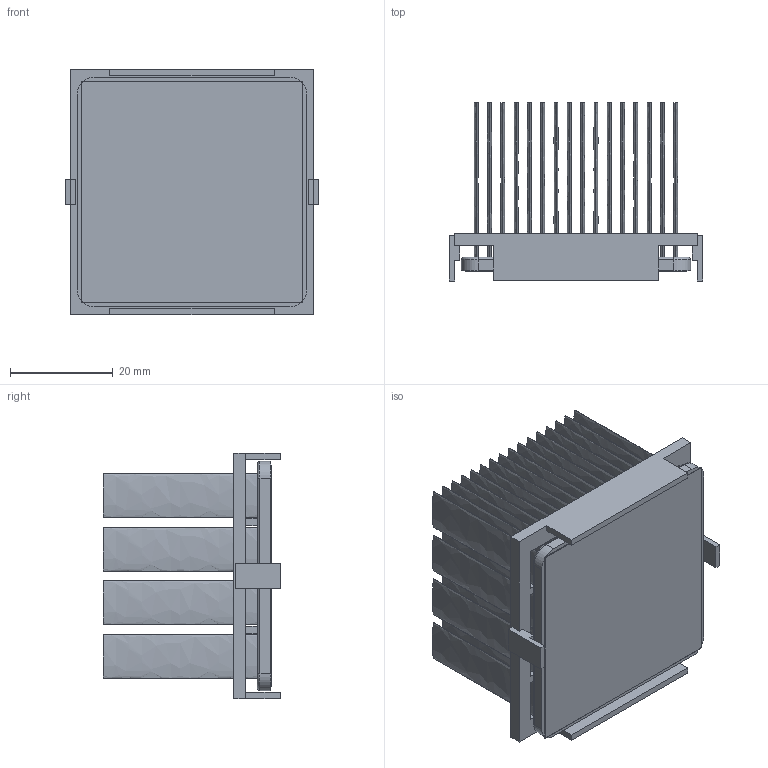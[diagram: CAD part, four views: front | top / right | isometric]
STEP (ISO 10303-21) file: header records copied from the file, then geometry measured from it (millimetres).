
FILE_DESCRIPTION (( 'STEP AP214' ), '1' );
FILE_NAME ('INM45001-33W-2.6BU.STEP', '2023-02-28T00:53:09', ( '' ), ( '' ), 'SwSTEP 2.0', 'SolidWorks 2020', '' );
FILE_SCHEMA (( 'AUTOMOTIVE_DESIGN' ));
Length unit declared in the file: inch
Products named in the file (1): INM45001-33W-2.6BU
Bounding box: 49.2 x 34.6 x 47.7 mm (x, y, z)
Volume: 17928.3 mm3; surface area: 44524 mm2
Topology: 3 solids, 3 shells, 274 faces, 604 edges, 400 vertices
Faces by surface type: plane 134, bspline 128, cylinder 8, torus 4
Entity records: 11396 total; most frequent: CARTESIAN_POINT 2943, ORIENTED_EDGE 1208, DIRECTION 662, EDGE_CURVE 604, VERTEX_POINT 400, EDGE_LOOP 340, VECTOR 328, LINE 328
